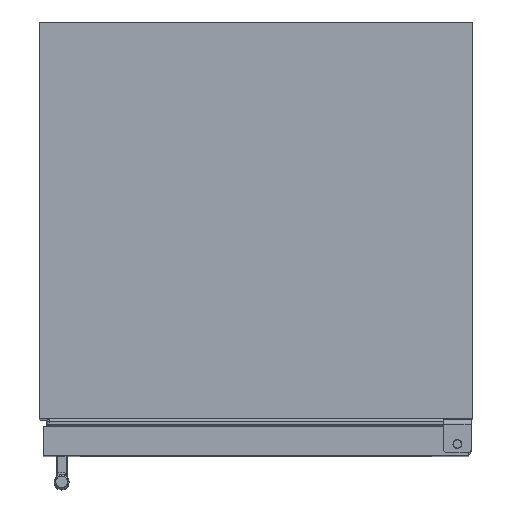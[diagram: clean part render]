
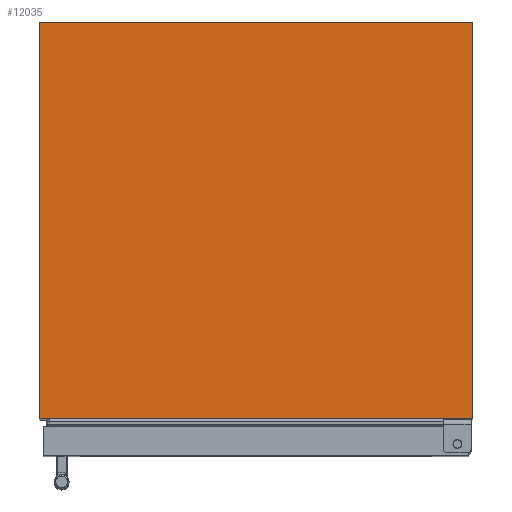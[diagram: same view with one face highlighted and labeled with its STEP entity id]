
A CAD part, top view. The second image highlights one B-rep face of the part: STEP entity #12035.
In plain terms, the highlighted planar face has unit normal (0, 0, 1).
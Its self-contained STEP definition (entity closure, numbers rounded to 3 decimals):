
#1628=FACE_OUTER_BOUND('',#2374,.T.);
#2374=EDGE_LOOP('',(#8067,#8068,#8069,#8070));
#3241=LINE('',#18235,#4102);
#3244=LINE('',#18241,#4105);
#3245=LINE('',#18243,#4106);
#3246=LINE('',#18244,#4107);
#4102=VECTOR('',#14416,10.);
#4105=VECTOR('',#14421,10.);
#4106=VECTOR('',#14422,10.);
#4107=VECTOR('',#14423,10.);
#4945=VERTEX_POINT('',#18232);
#4946=VERTEX_POINT('',#18234);
#4948=VERTEX_POINT('',#18240);
#4949=VERTEX_POINT('',#18242);
#6170=EDGE_CURVE('',#4946,#4945,#3241,.T.);
#6173=EDGE_CURVE('',#4945,#4948,#3244,.T.);
#6174=EDGE_CURVE('',#4949,#4948,#3245,.T.);
#6175=EDGE_CURVE('',#4949,#4946,#3246,.T.);
#8067=ORIENTED_EDGE('',*,*,#6173,.T.);
#8068=ORIENTED_EDGE('',*,*,#6174,.F.);
#8069=ORIENTED_EDGE('',*,*,#6175,.T.);
#8070=ORIENTED_EDGE('',*,*,#6170,.T.);
#11668=PLANE('',#12867);
#12035=ADVANCED_FACE('',(#1628),#11668,.T.);
#12867=AXIS2_PLACEMENT_3D('',#18239,#14419,#14420);
#14416=DIRECTION('',(1.,0.,0.));
#14419=DIRECTION('center_axis',(0.,0.,1.));
#14420=DIRECTION('ref_axis',(0.,-1.,0.));
#14421=DIRECTION('',(0.,1.,0.));
#14422=DIRECTION('',(1.,0.,0.));
#14423=DIRECTION('',(0.,-1.,0.));
#18232=CARTESIAN_POINT('',(585.,49.,820.));
#18234=CARTESIAN_POINT('',(0.,49.,820.));
#18235=CARTESIAN_POINT('',(0.,49.,820.));
#18239=CARTESIAN_POINT('Origin',(0.,585.,820.));
#18240=CARTESIAN_POINT('',(585.,585.,820.));
#18241=CARTESIAN_POINT('',(585.,451.,820.));
#18242=CARTESIAN_POINT('',(0.,585.,820.));
#18243=CARTESIAN_POINT('',(0.,585.,820.));
#18244=CARTESIAN_POINT('',(0.,585.,820.));
